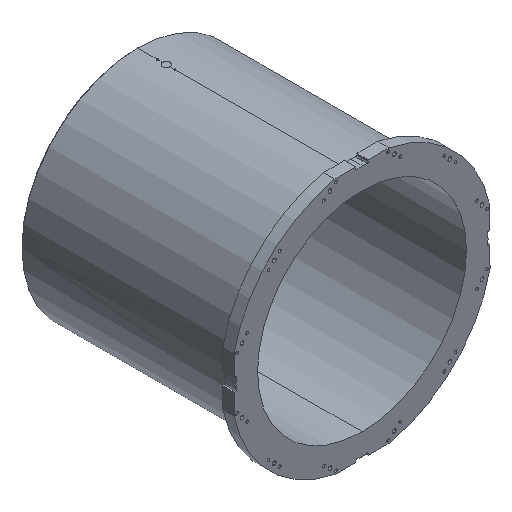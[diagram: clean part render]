
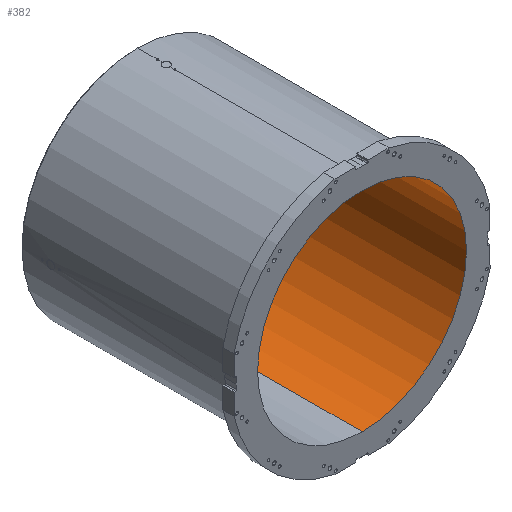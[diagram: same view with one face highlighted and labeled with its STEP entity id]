
A CAD part, isometric view. The second image highlights one B-rep face of the part: STEP entity #382.
In plain terms, the highlighted cylindrical face has radius 555 mm (diameter 1110 mm), a partial arc.
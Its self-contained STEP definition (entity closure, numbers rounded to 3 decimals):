
#382 = ADVANCED_FACE ( 'NONE', ( #9133 ), #5927, .F. ) ;
#948 = EDGE_LOOP ( 'NONE', ( #9921, #5493, #10152, #4110 ) ) ;
#987 = CIRCLE ( 'NONE', #7324, 555. ) ;
#1889 = VERTEX_POINT ( 'NONE', #3583 ) ;
#2203 = CARTESIAN_POINT ( 'NONE',  ( 0., 1144., 0. ) ) ;
#2256 = CARTESIAN_POINT ( 'NONE',  ( 0., 0., 555. ) ) ;
#3099 = CARTESIAN_POINT ( 'NONE',  ( 0., 0., 555. ) ) ;
#3583 = CARTESIAN_POINT ( 'NONE',  ( 0., 1144., 555. ) ) ;
#3777 = DIRECTION ( 'NONE',  ( 0., -1., 0. ) ) ;
#3840 = VERTEX_POINT ( 'NONE', #3099 ) ;
#4059 = VERTEX_POINT ( 'NONE', #13982 ) ;
#4110 = ORIENTED_EDGE ( 'NONE', *, *, #4896, .T. ) ;
#4404 = AXIS2_PLACEMENT_3D ( 'NONE', #2203, #11004, #7597 ) ;
#4896 = EDGE_CURVE ( 'NONE', #12319, #3840, #987, .T. ) ;
#5074 = CIRCLE ( 'NONE', #4404, 555. ) ;
#5493 = ORIENTED_EDGE ( 'NONE', *, *, #6350, .T. ) ;
#5927 = CYLINDRICAL_SURFACE ( 'NONE', #12907, 555. ) ;
#6350 = EDGE_CURVE ( 'NONE', #1889, #4059, #5074, .T. ) ;
#6554 = CARTESIAN_POINT ( 'NONE',  ( 0., 0., -555. ) ) ;
#6932 = VECTOR ( 'NONE', #11402, 1000. ) ;
#7058 = LINE ( 'NONE', #8982, #6932 ) ;
#7311 = DIRECTION ( 'NONE',  ( 0., 0., -1. ) ) ;
#7324 = AXIS2_PLACEMENT_3D ( 'NONE', #7451, #9516, #7311 ) ;
#7451 = CARTESIAN_POINT ( 'NONE',  ( 0., 0., 0. ) ) ;
#7597 = DIRECTION ( 'NONE',  ( 0., 0., -1. ) ) ;
#7910 = EDGE_CURVE ( 'NONE', #4059, #12319, #7058, .T. ) ;
#8079 = DIRECTION ( 'NONE',  ( 0., 0., -1. ) ) ;
#8982 = CARTESIAN_POINT ( 'NONE',  ( 0., 0., -555. ) ) ;
#9133 = FACE_OUTER_BOUND ( 'NONE', #948, .T. ) ;
#9516 = DIRECTION ( 'NONE',  ( 0., -1., 0. ) ) ;
#9921 = ORIENTED_EDGE ( 'NONE', *, *, #12394, .F. ) ;
#10152 = ORIENTED_EDGE ( 'NONE', *, *, #7910, .T. ) ;
#10577 = LINE ( 'NONE', #2256, #10682 ) ;
#10682 = VECTOR ( 'NONE', #10909, 1000. ) ;
#10909 = DIRECTION ( 'NONE',  ( 0., -1., 0. ) ) ;
#11004 = DIRECTION ( 'NONE',  ( 0., 1., 0. ) ) ;
#11402 = DIRECTION ( 'NONE',  ( 0., -1., 0. ) ) ;
#12319 = VERTEX_POINT ( 'NONE', #6554 ) ;
#12394 = EDGE_CURVE ( 'NONE', #1889, #3840, #10577, .T. ) ;
#12907 = AXIS2_PLACEMENT_3D ( 'NONE', #13453, #3777, #8079 ) ;
#13453 = CARTESIAN_POINT ( 'NONE',  ( 0., 0., 0. ) ) ;
#13982 = CARTESIAN_POINT ( 'NONE',  ( 0., 1144., -555. ) ) ;
